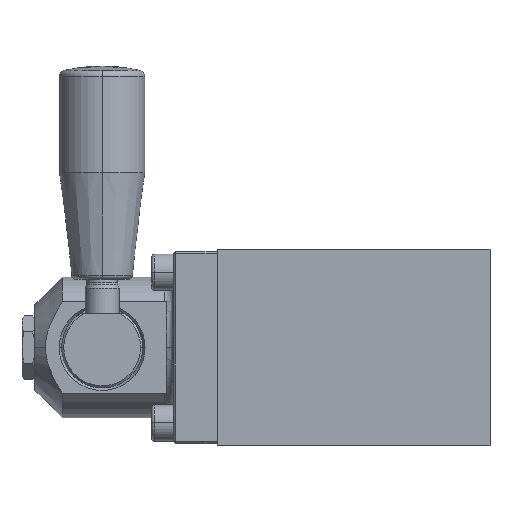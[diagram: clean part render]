
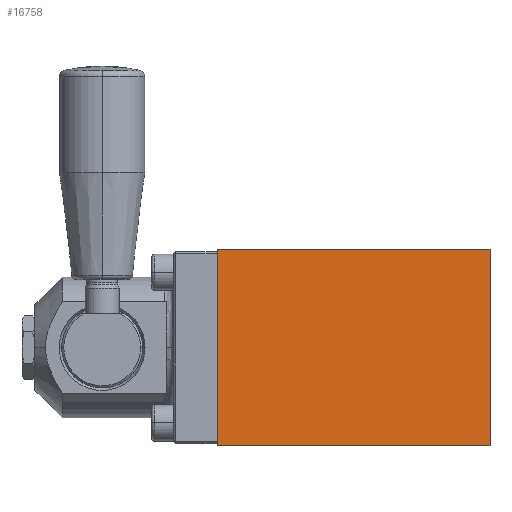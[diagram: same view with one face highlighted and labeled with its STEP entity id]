
A CAD part, top view. The second image highlights one B-rep face of the part: STEP entity #16758.
In plain terms, the highlighted planar face has unit normal (0, 0, 1).
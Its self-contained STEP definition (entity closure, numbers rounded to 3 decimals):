
#1700 = DIRECTION ( 'NONE',  ( 0., -1., 0. ) ) ;
#2253 = CARTESIAN_POINT ( 'NONE',  ( 64., 23., 23. ) ) ;
#2368 = LINE ( 'NONE', #3447, #17119 ) ;
#3436 = EDGE_CURVE ( 'NONE', #3818, #29010, #2368, .T. ) ;
#3447 = CARTESIAN_POINT ( 'NONE',  ( 64., -23., 23. ) ) ;
#3802 = CARTESIAN_POINT ( 'NONE',  ( 64., -23., 23. ) ) ;
#3818 = VERTEX_POINT ( 'NONE', #11804 ) ;
#4365 = ORIENTED_EDGE ( 'NONE', *, *, #7828, .T. ) ;
#4503 = FACE_OUTER_BOUND ( 'NONE', #9146, .T. ) ;
#4757 = CARTESIAN_POINT ( 'NONE',  ( 0., 23., 23. ) ) ;
#4761 = DIRECTION ( 'NONE',  ( -1., 0., 0. ) ) ;
#7271 = LINE ( 'NONE', #2253, #24921 ) ;
#7593 = VERTEX_POINT ( 'NONE', #28537 ) ;
#7828 = EDGE_CURVE ( 'NONE', #3818, #19163, #7271, .T. ) ;
#8238 = CARTESIAN_POINT ( 'NONE',  ( 64., -23., 23. ) ) ;
#8339 = EDGE_CURVE ( 'NONE', #29010, #7593, #28477, .T. ) ;
#8603 = PLANE ( 'NONE',  #14309 ) ;
#9146 = EDGE_LOOP ( 'NONE', ( #12646, #17331, #25383, #4365 ) ) ;
#10097 = VECTOR ( 'NONE', #24348, 1000. ) ;
#10944 = DIRECTION ( 'NONE',  ( -1., 0., 0. ) ) ;
#11804 = CARTESIAN_POINT ( 'NONE',  ( 64., 23., 23. ) ) ;
#12646 = ORIENTED_EDGE ( 'NONE', *, *, #25815, .T. ) ;
#12857 = CARTESIAN_POINT ( 'NONE',  ( 0., -23., 23. ) ) ;
#14309 = AXIS2_PLACEMENT_3D ( 'NONE', #3802, #22235, #10944 ) ;
#16517 = LINE ( 'NONE', #12857, #29104 ) ;
#16758 = ADVANCED_FACE ( 'NONE', ( #4503 ), #8603, .F. ) ;
#17119 = VECTOR ( 'NONE', #17136, 1000. ) ;
#17136 = DIRECTION ( 'NONE',  ( 0., -1., 0. ) ) ;
#17331 = ORIENTED_EDGE ( 'NONE', *, *, #8339, .F. ) ;
#18814 = CARTESIAN_POINT ( 'NONE',  ( 64., -23., 23. ) ) ;
#19163 = VERTEX_POINT ( 'NONE', #4757 ) ;
#22235 = DIRECTION ( 'NONE',  ( 0., 0., -1. ) ) ;
#24348 = DIRECTION ( 'NONE',  ( -1., 0., 0. ) ) ;
#24921 = VECTOR ( 'NONE', #4761, 1000. ) ;
#25383 = ORIENTED_EDGE ( 'NONE', *, *, #3436, .F. ) ;
#25815 = EDGE_CURVE ( 'NONE', #19163, #7593, #16517, .T. ) ;
#28477 = LINE ( 'NONE', #8238, #10097 ) ;
#28537 = CARTESIAN_POINT ( 'NONE',  ( 0., -23., 23. ) ) ;
#29010 = VERTEX_POINT ( 'NONE', #18814 ) ;
#29104 = VECTOR ( 'NONE', #1700, 1000. ) ;
